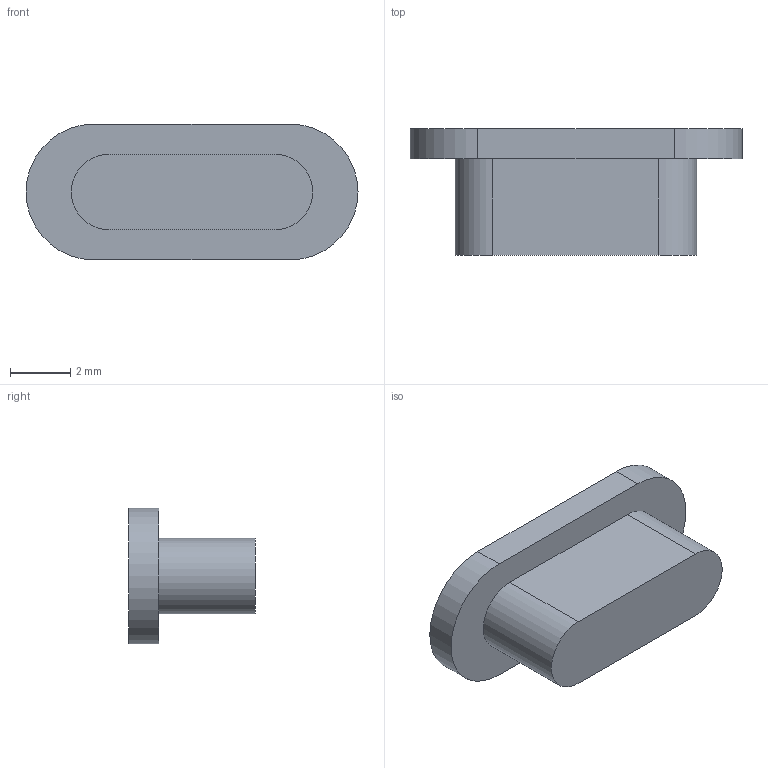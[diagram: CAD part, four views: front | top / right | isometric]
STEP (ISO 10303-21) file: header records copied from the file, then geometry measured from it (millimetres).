
FILE_DESCRIPTION(('Open CASCADE Model'),'2;1');
FILE_NAME('status_lens_clear_diffusing','2026-09-08T13:43:18',('Author') ,('Open CASCADE'),'Open CASCADE STEP processor 7.8','build123d', 'Unknown');
FILE_SCHEMA(('AUTOMOTIVE_DESIGN { 1 0 10303 214 1 1 1 1 }'));
Length unit declared in the file: millimetre
Products named in the file (2): =>[0:1:1:2]; status_lens_clear_diffusing
Assembly tree (1 placements, depth 2):
  =>[0:1:1:2]
    status_lens_clear_diffusing
Bounding box: 11 x 4.2 x 4.5 mm (x, y, z)
Volume: 104.9 mm3; surface area: 177.8 mm2
Topology: 1 solids, 1 shells, 11 faces, 24 edges, 16 vertices
Faces by surface type: plane 7, cylinder 4
Entity records: 670 total; most frequent: CARTESIAN_POINT 149, DIRECTION 98, LINE 56, VECTOR 56, ORIENTED_EDGE 48, PCURVE 48, DEFINITIONAL_REPRESENTATION 48, EDGE_CURVE 24
